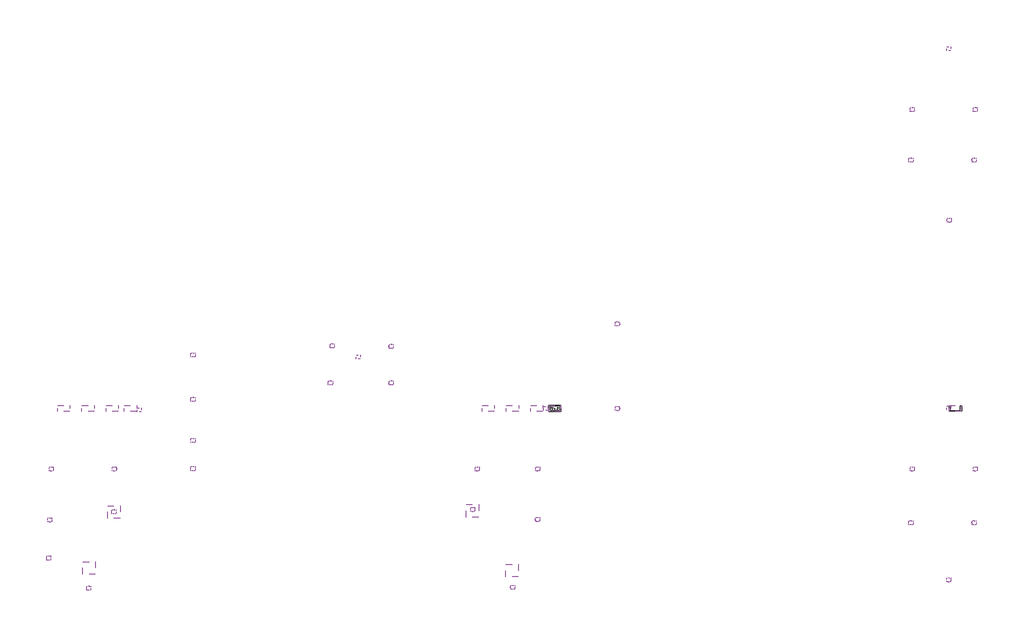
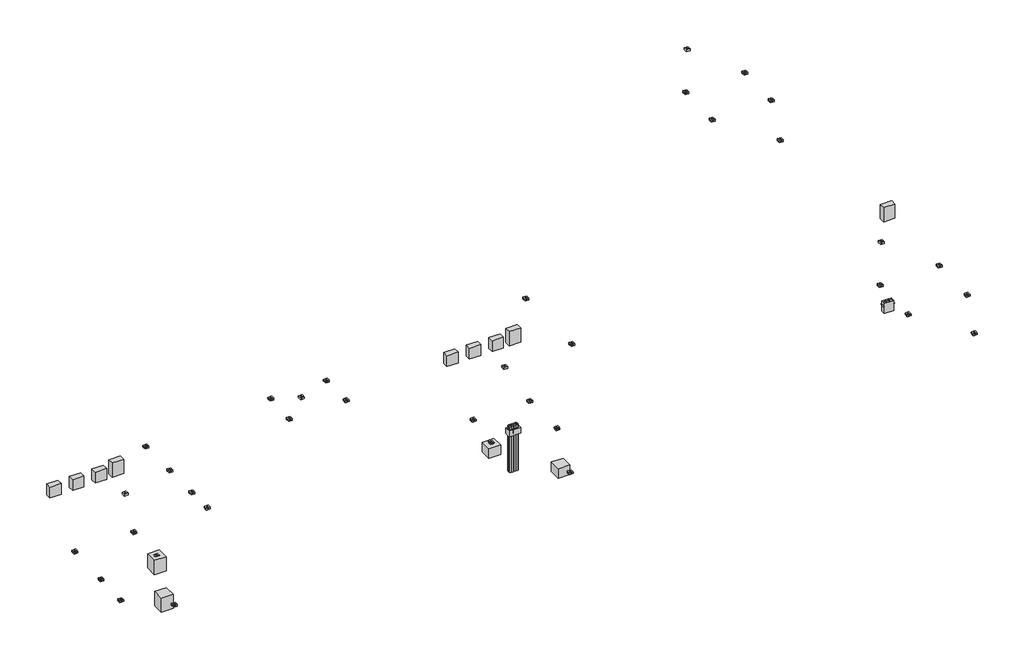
# One storey: 60 proxies.
"""IFC4 building model written with IfcOpenShell, lengths in millimetres."""

from ifc_helpers import new_model, si_unit, origin, place, context, project, spatial, transform, mapped, element, save
from components import generic_models_95319f70, generic_models_0aa0c841, generic_models_7e42b7d0, electrical_equipment_e233f642, electrical_equipment_43165160, electrical_fixtures_ff56aada, generic_models_fd5a0a99, generic_models_925cb547, electrical_equipment_e4ef6d0d, electrical_equipment_611ffe71

model = new_model("IFC4")

# Units and contexts
model_context = context("Model", 3, world=origin())
ifc_project = project(units=[si_unit("LENGTHUNIT", "METRE", prefix="MILLI")], contexts=[model_context])

# Site, building, storey
site = spatial("IfcSite", under=ifc_project)
building = spatial("IfcBuilding", under=site)
storey = spatial("IfcBuildingStorey", under=building, Name="Уровень 2", Elevation=4000.0)

# Proxies
placement = place(None, origin())
generic_models_shape = generic_models_95319f70(model_context)
element("IfcBuildingElementProxy", 1, Name="▲GM_УЭР_кабельная_проходка : трубы_60_48_мм", ObjectType="▲GM_УЭР_кабельная_проходка : трубы_60_48_мм", at=placement, inside=storey, context=model_context, shape_type="MappedRepresentation", body=[
    mapped(generic_models_shape, transform((37117.1146476, 9545.3355395, 4000.0), x_axis=(1.0, 0.0, 0.0), y_axis=(0.0, 1.0, 0.0), z_axis=(0.0, 0.0, 1.0))),
])
generic_models_2_shape = generic_models_0aa0c841(model_context)
element("IfcBuildingElementProxy", 2, Name="▲GM_Труба : Тэ048_мм", ObjectType="▲GM_Труба : Тэ048_мм", at=placement, inside=storey, context=model_context, shape_type="MappedRepresentation", body=[
    mapped(generic_models_2_shape, transform((37171.1146476, 9506.3355395, 4000.0), x_axis=(1.0, 0.0, 0.0), y_axis=(0.0, 1.0, 0.0), z_axis=(0.0, 0.0, 1.0))),
])
element("IfcBuildingElementProxy", 3, Name="▲GM_Труба : Тэ048_мм", ObjectType="▲GM_Труба : Тэ048_мм", at=placement, inside=storey, context=model_context, shape_type="MappedRepresentation", body=[
    mapped(generic_models_2_shape, transform((37219.1146476, 9506.3355395, 4000.0), x_axis=(1.0, 0.0, 0.0), y_axis=(0.0, 1.0, 0.0), z_axis=(0.0, 0.0, 1.0))),
])
element("IfcBuildingElementProxy", 4, Name="▲GM_Труба : Тэ048_мм", ObjectType="▲GM_Труба : Тэ048_мм", at=placement, inside=storey, context=model_context, shape_type="MappedRepresentation", body=[
    mapped(generic_models_2_shape, transform((37267.1146476, 9506.3355395, 4000.0), x_axis=(1.0, 0.0, 0.0), y_axis=(0.0, 1.0, 0.0), z_axis=(0.0, 0.0, 1.0))),
])
element("IfcBuildingElementProxy", 5, Name="▲GM_Труба : Тэ048_мм", ObjectType="▲GM_Труба : Тэ048_мм", at=placement, inside=storey, context=model_context, shape_type="MappedRepresentation", body=[
    mapped(generic_models_2_shape, transform((37315.1146476, 9506.3355395, 4000.0), x_axis=(1.0, 0.0, 0.0), y_axis=(0.0, 1.0, 0.0), z_axis=(0.0, 0.0, 1.0))),
])
element("IfcBuildingElementProxy", 6, Name="▲GM_Труба : Тэ048_мм", ObjectType="▲GM_Труба : Тэ048_мм", at=placement, inside=storey, context=model_context, shape_type="MappedRepresentation", body=[
    mapped(generic_models_2_shape, transform((37363.1146476, 9506.3355395, 4000.0), x_axis=(1.0, 0.0, 0.0), y_axis=(0.0, 1.0, 0.0), z_axis=(0.0, 0.0, 1.0))),
])
generic_models_3_shape = generic_models_7e42b7d0(model_context)
element("IfcBuildingElementProxy", 7, Name="▲GM_Труба : Тэ060_мм", ObjectType="▲GM_Труба : Тэ060_мм", at=placement, inside=storey, context=model_context, shape_type="MappedRepresentation", body=[
    mapped(generic_models_3_shape, transform((37177.1146476, 9452.3355395, 4000.0), x_axis=(1.0, 0.0, 0.0), y_axis=(0.0, 1.0, 0.0), z_axis=(0.0, 0.0, 1.0))),
])
element("IfcBuildingElementProxy", 8, Name="▲GM_Труба : Тэ060_мм", ObjectType="▲GM_Труба : Тэ060_мм", at=placement, inside=storey, context=model_context, shape_type="MappedRepresentation", body=[
    mapped(generic_models_3_shape, transform((37237.1146476, 9452.3355395, 4000.0), x_axis=(1.0, 0.0, 0.0), y_axis=(0.0, 1.0, 0.0), z_axis=(0.0, 0.0, 1.0))),
])
element("IfcBuildingElementProxy", 9, Name="▲GM_Труба : Тэ060_мм", ObjectType="▲GM_Труба : Тэ060_мм", at=placement, inside=storey, context=model_context, shape_type="MappedRepresentation", body=[
    mapped(generic_models_3_shape, transform((37297.1146476, 9452.3355395, 4000.0), x_axis=(1.0, 0.0, 0.0), y_axis=(0.0, 1.0, 0.0), z_axis=(0.0, 0.0, 1.0))),
])
element("IfcBuildingElementProxy", 10, Name="▲GM_Труба : Тэ060_мм", ObjectType="▲GM_Труба : Тэ060_мм", at=placement, inside=storey, context=model_context, shape_type="MappedRepresentation", body=[
    mapped(generic_models_3_shape, transform((37357.1146476, 9452.3355395, 4000.0), x_axis=(1.0, 0.0, 0.0), y_axis=(0.0, 1.0, 0.0), z_axis=(0.0, 0.0, 1.0))),
])
electrical_equipment_shape = electrical_equipment_e233f642(model_context)
element("IfcBuildingElementProxy", 11, Name="▲EE_УЭР_компенсатор : 0300_мм", ObjectType="▲EE_УЭР_компенсатор : 0300_мм", at=placement, inside=storey, context=model_context, shape_type="MappedRepresentation", body=[
    mapped(electrical_equipment_shape, transform((26167.1146476, 9545.3355395, 6380.0), x_axis=(1.0, 0.0, 0.0), y_axis=(0.0, 1.0, 0.0), z_axis=(0.0, 0.0, 1.0))),
])
element("IfcBuildingElementProxy", 12, Name="▲EE_УЭР_компенсатор : 0300_мм", ObjectType="▲EE_УЭР_компенсатор : 0300_мм", at=placement, inside=storey, context=model_context, shape_type="MappedRepresentation", body=[
    mapped(electrical_equipment_shape, transform((36667.1146476, 9545.3355395, 6380.0), x_axis=(1.0, 0.0, 0.0), y_axis=(0.0, 1.0, 0.0), z_axis=(0.0, 0.0, 1.0))),
])
electrical_equipment_2_shape = electrical_equipment_43165160(model_context)
element("IfcBuildingElementProxy", 13, Name="▲EE_УЭР_компенсатор : 0400_мм", ObjectType="▲EE_УЭР_компенсатор : 0400_мм", at=placement, inside=storey, context=model_context, shape_type="MappedRepresentation", body=[
    mapped(electrical_equipment_2_shape, transform((26917.1146476, 9395.3355395, 6380.0), x_axis=(-1.0, 0.0, 0.0), y_axis=(0.0, -1.0, 0.0), z_axis=(0.0, 0.0, 1.0))),
])
element("IfcBuildingElementProxy", 14, Name="▲EE_УЭР_компенсатор : 0400_мм", ObjectType="▲EE_УЭР_компенсатор : 0400_мм", at=placement, inside=storey, context=model_context, shape_type="MappedRepresentation", body=[
    mapped(electrical_equipment_2_shape, transform((37417.1146476, 9395.3355395, 6380.0), x_axis=(-1.0, 0.0, 0.0), y_axis=(0.0, -1.0, 0.0), z_axis=(0.0, 0.0, 1.0))),
])
element("IfcBuildingElementProxy", 15, Name="▲EE_УЭР_компенсатор : 0400_мм", ObjectType="▲EE_УЭР_компенсатор : 0400_мм", at=placement, inside=storey, context=model_context, shape_type="MappedRepresentation", body=[
    mapped(electrical_equipment_2_shape, transform((47322.1146476, 9395.3355395, 6380.0), x_axis=(-1.0, 0.0, 0.0), y_axis=(0.0, -1.0, 0.0), z_axis=(0.0, 0.0, 1.0))),
])
electrical_fixtures_shape = electrical_fixtures_ff56aada(model_context)
element("IfcBuildingElementProxy", 16, Name="mS_EF_НГ_электроприбор : mS_EF_НГ_электроприбор", ObjectType="mS_EF_НГ_электроприбор : mS_EF_НГ_электроприбор", at=placement, inside=storey, context=model_context, shape_type="MappedRepresentation", body=[
    mapped(electrical_fixtures_shape, transform((24806.41537, 7971.2100075, 5800.0), x_axis=(1.0, 0.0, 0.0), y_axis=(0.0, 1.0, 0.0), z_axis=(0.0, 0.0, 1.0))),
])
element("IfcBuildingElementProxy", 17, Name="mS_EF_НГ_электроприбор : mS_EF_НГ_электроприбор", ObjectType="mS_EF_НГ_электроприбор : mS_EF_НГ_электроприбор", at=placement, inside=storey, context=model_context, shape_type="MappedRepresentation", body=[
    mapped(electrical_fixtures_shape, transform((24769.6279888, 6708.6894082, 5800.0), x_axis=(1.0, 0.0, 0.0), y_axis=(0.0, 1.0, 0.0), z_axis=(0.0, 0.0, 1.0))),
])
element("IfcBuildingElementProxy", 18, Name="mS_EF_НГ_электроприбор : mS_EF_НГ_электроприбор", ObjectType="mS_EF_НГ_электроприбор : mS_EF_НГ_электроприбор", at=placement, inside=storey, context=model_context, shape_type="MappedRepresentation", body=[
    mapped(electrical_fixtures_shape, transform((26366.41537, 7971.2100075, 5800.0), x_axis=(1.0, 0.0, 0.0), y_axis=(0.0, 1.0, 0.0), z_axis=(0.0, 0.0, 1.0))),
])
element("IfcBuildingElementProxy", 19, Name="mS_EF_НГ_электроприбор : mS_EF_НГ_электроприбор", ObjectType="mS_EF_НГ_электроприбор : mS_EF_НГ_электроприбор", at=placement, inside=storey, context=model_context, shape_type="MappedRepresentation", body=[
    mapped(electrical_fixtures_shape, transform((24744.6279888, 5764.1889301, 5800.0), x_axis=(1.0, 0.0, 0.0), y_axis=(0.0, 1.0, 0.0), z_axis=(0.0, 0.0, 1.0))),
])
element("IfcBuildingElementProxy", 20, Name="mS_EF_НГ_электроприбор : mS_EF_НГ_электроприбор", ObjectType="mS_EF_НГ_электроприбор : mS_EF_НГ_электроприбор", at=placement, inside=storey, context=model_context, shape_type="MappedRepresentation", body=[
    mapped(electrical_fixtures_shape, transform((26358.8579691, 6910.4766733, 5776.3775228), x_axis=(1.0, 0.0, 0.0), y_axis=(0.0, 1.0, 0.0), z_axis=(0.0, 0.0, 1.0))),
])
element("IfcBuildingElementProxy", 21, Name="mS_EF_НГ_электроприбор : mS_EF_НГ_электроприбор", ObjectType="mS_EF_НГ_электроприбор : mS_EF_НГ_электроприбор", at=placement, inside=storey, context=model_context, shape_type="MappedRepresentation", body=[
    mapped(electrical_fixtures_shape, transform((25733.8579691, 5019.1889301, 5775.0), x_axis=(1.0, 0.0, 0.0), y_axis=(0.0, 1.0, 0.0), z_axis=(0.0, 0.0, 1.0))),
])
element("IfcBuildingElementProxy", 22, Name="mS_EF_НГ_электроприбор : mS_EF_НГ_электроприбор", ObjectType="mS_EF_НГ_электроприбор : mS_EF_НГ_электроприбор", at=placement, inside=storey, context=model_context, shape_type="MappedRepresentation", body=[
    mapped(electrical_fixtures_shape, transform((35239.6279888, 6966.2100075, 5800.0), x_axis=(1.0, 0.0, 0.0), y_axis=(0.0, 1.0, 0.0), z_axis=(0.0, 0.0, 1.0))),
])
element("IfcBuildingElementProxy", 23, Name="mS_EF_НГ_электроприбор : mS_EF_НГ_электроприбор", ObjectType="mS_EF_НГ_электроприбор : mS_EF_НГ_электроприбор", at=placement, inside=storey, context=model_context, shape_type="MappedRepresentation", body=[
    mapped(electrical_fixtures_shape, transform((36219.6279888, 5040.4766733, 5800.0), x_axis=(1.0, 0.0, 0.0), y_axis=(0.0, 1.0, 0.0), z_axis=(0.0, 0.0, 1.0))),
])
element("IfcBuildingElementProxy", 24, Name="mS_EF_НГ_электроприбор : mS_EF_НГ_электроприбор", ObjectType="mS_EF_НГ_электроприбор : mS_EF_НГ_электроприбор", at=placement, inside=storey, context=model_context, shape_type="MappedRepresentation", body=[
    mapped(electrical_fixtures_shape, transform((35342.1222304, 7971.2100075, 5800.0), x_axis=(1.0, 0.0, 0.0), y_axis=(0.0, 1.0, 0.0), z_axis=(0.0, 0.0, 1.0))),
])
element("IfcBuildingElementProxy", 25, Name="mS_EF_НГ_электроприбор : mS_EF_НГ_электроприбор", ObjectType="mS_EF_НГ_электроприбор : mS_EF_НГ_электроприбор", at=placement, inside=storey, context=model_context, shape_type="MappedRepresentation", body=[
    mapped(electrical_fixtures_shape, transform((36837.1222304, 7971.2100075, 5800.0), x_axis=(1.0, 0.0, 0.0), y_axis=(0.0, 1.0, 0.0), z_axis=(0.0, 0.0, 1.0))),
])
element("IfcBuildingElementProxy", 26, Name="mS_EF_НГ_электроприбор : mS_EF_НГ_электроприбор", ObjectType="mS_EF_НГ_электроприбор : mS_EF_НГ_электроприбор", at=placement, inside=storey, context=model_context, shape_type="MappedRepresentation", body=[
    mapped(electrical_fixtures_shape, transform((36837.1222304, 6718.6894082, 5800.0), x_axis=(1.0, 0.0, 0.0), y_axis=(0.0, 1.0, 0.0), z_axis=(0.0, 0.0, 1.0))),
])
element("IfcBuildingElementProxy", 27, Name="mS_EF_НГ_электроприбор : mS_EF_НГ_электроприбор", ObjectType="mS_EF_НГ_электроприбор : mS_EF_НГ_электроприбор", at=placement, inside=storey, context=model_context, shape_type="MappedRepresentation", body=[
    mapped(electrical_fixtures_shape, transform((46106.41537, 7971.2100075, 5800.0), x_axis=(1.0, 0.0, 0.0), y_axis=(0.0, 1.0, 0.0), z_axis=(0.0, 0.0, 1.0))),
])
element("IfcBuildingElementProxy", 28, Name="mS_EF_НГ_электроприбор : mS_EF_НГ_электроприбор", ObjectType="mS_EF_НГ_электроприбор : mS_EF_НГ_электроприбор", at=placement, inside=storey, context=model_context, shape_type="MappedRepresentation", body=[
    mapped(electrical_fixtures_shape, transform((47666.41537, 7971.2100075, 5800.0), x_axis=(1.0, 0.0, 0.0), y_axis=(0.0, 1.0, 0.0), z_axis=(0.0, 0.0, 1.0))),
])
element("IfcBuildingElementProxy", 29, Name="mS_EF_НГ_электроприбор : mS_EF_НГ_электроприбор", ObjectType="mS_EF_НГ_электроприбор : mS_EF_НГ_электроприбор", at=placement, inside=storey, context=model_context, shape_type="MappedRepresentation", body=[
    mapped(electrical_fixtures_shape, transform((46077.1222304, 6639.0759859, 5800.0), x_axis=(1.0, 0.0, 0.0), y_axis=(0.0, 1.0, 0.0), z_axis=(0.0, 0.0, 1.0))),
])
element("IfcBuildingElementProxy", 30, Name="mS_EF_НГ_электроприбор : mS_EF_НГ_электроприбор", ObjectType="mS_EF_НГ_электроприбор : mS_EF_НГ_электроприбор", at=placement, inside=storey, context=model_context, shape_type="MappedRepresentation", body=[
    mapped(electrical_fixtures_shape, transform((47637.1222304, 6639.0759859, 5800.0), x_axis=(1.0, 0.0, 0.0), y_axis=(0.0, 1.0, 0.0), z_axis=(0.0, 0.0, 1.0))),
])
element("IfcBuildingElementProxy", 31, Name="mS_EF_НГ_электроприбор : mS_EF_НГ_электроприбор", ObjectType="mS_EF_НГ_электроприбор : mS_EF_НГ_электроприбор", at=placement, inside=storey, context=model_context, shape_type="MappedRepresentation", body=[
    mapped(electrical_fixtures_shape, transform((47009.6279888, 5224.8465214, 5800.0), x_axis=(1.0, 0.0, 0.0), y_axis=(0.0, 1.0, 0.0), z_axis=(0.0, 0.0, 1.0))),
])
element("IfcBuildingElementProxy", 32, Name="mS_EF_НГ_электроприбор : mS_EF_НГ_электроприбор", ObjectType="mS_EF_НГ_электроприбор : mS_EF_НГ_электроприбор", at=placement, inside=storey, context=model_context, shape_type="MappedRepresentation", body=[
    mapped(electrical_fixtures_shape, transform((47019.6279888, 14129.3465214, 5800.0), x_axis=(1.0, 0.0, 0.0), y_axis=(0.0, 1.0, 0.0), z_axis=(0.0, 0.0, 1.0))),
])
element("IfcBuildingElementProxy", 33, Name="mS_EF_НГ_электроприбор : mS_EF_НГ_электроприбор", ObjectType="mS_EF_НГ_электроприбор : mS_EF_НГ_электроприбор", at=placement, inside=storey, context=model_context, shape_type="MappedRepresentation", body=[
    mapped(electrical_fixtures_shape, transform((46106.41537, 16871.2100075, 5800.0), x_axis=(1.0, 0.0, 0.0), y_axis=(0.0, 1.0, 0.0), z_axis=(0.0, 0.0, 1.0))),
])
element("IfcBuildingElementProxy", 34, Name="mS_EF_НГ_электроприбор : mS_EF_НГ_электроприбор", ObjectType="mS_EF_НГ_электроприбор : mS_EF_НГ_электроприбор", at=placement, inside=storey, context=model_context, shape_type="MappedRepresentation", body=[
    mapped(electrical_fixtures_shape, transform((47666.41537, 16871.2100075, 5800.0), x_axis=(1.0, 0.0, 0.0), y_axis=(0.0, 1.0, 0.0), z_axis=(0.0, 0.0, 1.0))),
])
element("IfcBuildingElementProxy", 35, Name="mS_EF_НГ_электроприбор : mS_EF_НГ_электроприбор", ObjectType="mS_EF_НГ_электроприбор : mS_EF_НГ_электроприбор", at=placement, inside=storey, context=model_context, shape_type="MappedRepresentation", body=[
    mapped(electrical_fixtures_shape, transform((46077.1222304, 15618.6894082, 5800.0), x_axis=(1.0, 0.0, 0.0), y_axis=(0.0, 1.0, 0.0), z_axis=(0.0, 0.0, 1.0))),
])
element("IfcBuildingElementProxy", 36, Name="mS_EF_НГ_электроприбор : mS_EF_НГ_электроприбор", ObjectType="mS_EF_НГ_электроприбор : mS_EF_НГ_электроприбор", at=placement, inside=storey, context=model_context, shape_type="MappedRepresentation", body=[
    mapped(electrical_fixtures_shape, transform((47637.1222304, 15618.6894082, 5800.0), x_axis=(1.0, 0.0, 0.0), y_axis=(0.0, 1.0, 0.0), z_axis=(0.0, 0.0, 1.0))),
])
generic_models_4_shape = generic_models_fd5a0a99(model_context)
element("IfcBuildingElementProxy", 37, Name="▲GM_Зона обслуживания : Тип", ObjectType="▲GM_Зона обслуживания : Тип", at=placement, inside=storey, context=model_context, shape_type="MappedRepresentation", body=[
    mapped(generic_models_4_shape, transform((25900.8238579, 5363.2978573, 5405.0), x_axis=(-1.0, 0.0, 0.0), y_axis=(0.0, -1.0, 0.0), z_axis=(0.0, 0.0, 1.0))),
])
element("IfcBuildingElementProxy", 38, Name="▲GM_Зона обслуживания : Тип", ObjectType="▲GM_Зона обслуживания : Тип", at=placement, inside=storey, context=model_context, shape_type="MappedRepresentation", body=[
    mapped(generic_models_4_shape, transform((26513.8579691, 6747.8427321, 5406.3775228), x_axis=(-1.0, 0.0, 0.0), y_axis=(0.0, -1.0, 0.0), z_axis=(0.0, 0.0, 1.0))),
])
generic_models_5_shape = generic_models_925cb547(model_context)
element("IfcBuildingElementProxy", 39, Name="▲GM_Зона обслуживания : Тип", ObjectType="▲GM_Зона обслуживания : Тип", at=placement, inside=storey, context=model_context, shape_type="MappedRepresentation", body=[
    mapped(generic_models_5_shape, transform((35380.8029045, 6778.6894082, 5535.0), x_axis=(-1.0, 0.0, 0.0), y_axis=(0.0, -1.0, 0.0), z_axis=(0.0, 0.0, 1.0))),
])
element("IfcBuildingElementProxy", 40, Name="▲GM_Зона обслуживания : Тип", ObjectType="▲GM_Зона обслуживания : Тип", at=placement, inside=storey, context=model_context, shape_type="MappedRepresentation", body=[
    mapped(generic_models_5_shape, transform((36360.5596599, 5299.3465214, 5535.0), x_axis=(-1.0, 0.0, 0.0), y_axis=(0.0, -1.0, 0.0), z_axis=(0.0, 0.0, 1.0))),
])
electrical_equipment_3_shape = electrical_equipment_e4ef6d0d(model_context)
element("IfcBuildingElementProxy", 41, Name="mS_EE_НГ_транзит : mS_EE_НГ_транзит", ObjectType="mS_EE_НГ_транзит : mS_EE_НГ_транзит", at=placement, inside=storey, context=model_context, shape_type="MappedRepresentation", body=[
    mapped(electrical_equipment_3_shape, transform((47009.6279888, 18380.4766733, 5800.0), x_axis=(1.0, 0.0, 0.0), y_axis=(0.0, 1.0, 0.0), z_axis=(0.0, 0.0, 1.0))),
])
element("IfcBuildingElementProxy", 42, Name="mS_EE_НГ_транзит : mS_EE_НГ_транзит", ObjectType="mS_EE_НГ_транзит : mS_EE_НГ_транзит", at=placement, inside=storey, context=model_context, shape_type="MappedRepresentation", body=[
    mapped(electrical_equipment_3_shape, transform((47009.6279888, 9480.4766733, 5800.0), x_axis=(1.0, 0.0, 0.0), y_axis=(0.0, 1.0, 0.0), z_axis=(0.0, 0.0, 1.0))),
])
element("IfcBuildingElementProxy", 43, Name="mS_EE_НГ_транзит : mS_EE_НГ_транзит", ObjectType="mS_EE_НГ_транзит : mS_EE_НГ_транзит", at=placement, inside=storey, context=model_context, shape_type="MappedRepresentation", body=[
    mapped(electrical_equipment_3_shape, transform((37040.0508153, 9465.2877518, 5800.0), x_axis=(1.0, 0.0, 0.0), y_axis=(0.0, 1.0, 0.0), z_axis=(0.0, 0.0, 1.0))),
])
element("IfcBuildingElementProxy", 44, Name="mS_EE_НГ_транзит : mS_EE_НГ_транзит", ObjectType="mS_EE_НГ_транзит : mS_EE_НГ_транзит", at=placement, inside=storey, context=model_context, shape_type="MappedRepresentation", body=[
    mapped(electrical_equipment_3_shape, transform((26978.9789974, 9434.5949034, 5800.0), x_axis=(1.0, 0.0, 0.0), y_axis=(0.0, 1.0, 0.0), z_axis=(0.0, 0.0, 1.0))),
])
element("IfcBuildingElementProxy", 45, Name="mS_EE_НГ_транзит : mS_EE_НГ_транзит", ObjectType="mS_EE_НГ_транзит : mS_EE_НГ_транзит", at=placement, inside=storey, context=model_context, shape_type="MappedRepresentation", body=[
    mapped(electrical_equipment_3_shape, transform((32404.3452942, 10748.383353, 5800.0), x_axis=(1.0, 0.0, 0.0), y_axis=(0.0, 1.0, 0.0), z_axis=(0.0, 0.0, 1.0))),
])
element("IfcBuildingElementProxy", 46, Name="mS_EF_НГ_электроприбор : mS_EF_НГ_электроприбор", ObjectType="mS_EF_НГ_электроприбор : mS_EF_НГ_электроприбор", at=placement, inside=storey, context=model_context, shape_type="MappedRepresentation", body=[
    mapped(electrical_fixtures_shape, transform((38813.5270305, 9463.8856698, 5800.0), x_axis=(1.0, 0.0, 0.0), y_axis=(0.0, 1.0, 0.0), z_axis=(0.0, 0.0, 1.0))),
])
element("IfcBuildingElementProxy", 47, Name="mS_EF_НГ_электроприбор : mS_EF_НГ_электроприбор", ObjectType="mS_EF_НГ_электроприбор : mS_EF_НГ_электроприбор", at=placement, inside=storey, context=model_context, shape_type="MappedRepresentation", body=[
    mapped(electrical_fixtures_shape, transform((38813.5270305, 11563.8856698, 5800.0), x_axis=(1.0, 0.0, 0.0), y_axis=(0.0, 1.0, 0.0), z_axis=(0.0, 0.0, 1.0))),
])
element("IfcBuildingElementProxy", 48, Name="mS_EF_НГ_электроприбор : mS_EF_НГ_электроприбор", ObjectType="mS_EF_НГ_электроприбор : mS_EF_НГ_электроприбор", at=placement, inside=storey, context=model_context, shape_type="MappedRepresentation", body=[
    mapped(electrical_fixtures_shape, transform((28313.5270305, 7978.8856698, 5800.0), x_axis=(1.0, 0.0, 0.0), y_axis=(0.0, 1.0, 0.0), z_axis=(0.0, 0.0, 1.0))),
])
element("IfcBuildingElementProxy", 49, Name="mS_EF_НГ_электроприбор : mS_EF_НГ_электроприбор", ObjectType="mS_EF_НГ_электроприбор : mS_EF_НГ_электроприбор", at=placement, inside=storey, context=model_context, shape_type="MappedRepresentation", body=[
    mapped(electrical_fixtures_shape, transform((28313.5270305, 8678.8856698, 5800.0), x_axis=(1.0, 0.0, 0.0), y_axis=(0.0, 1.0, 0.0), z_axis=(0.0, 0.0, 1.0))),
])
element("IfcBuildingElementProxy", 50, Name="mS_EF_НГ_электроприбор : mS_EF_НГ_электроприбор", ObjectType="mS_EF_НГ_электроприбор : mS_EF_НГ_электроприбор", at=placement, inside=storey, context=model_context, shape_type="MappedRepresentation", body=[
    mapped(electrical_fixtures_shape, transform((28313.5270305, 9693.8856698, 5800.0), x_axis=(1.0, 0.0, 0.0), y_axis=(0.0, 1.0, 0.0), z_axis=(0.0, 0.0, 1.0))),
])
element("IfcBuildingElementProxy", 51, Name="mS_EF_НГ_электроприбор : mS_EF_НГ_электроприбор", ObjectType="mS_EF_НГ_электроприбор : mS_EF_НГ_электроприбор", at=placement, inside=storey, context=model_context, shape_type="MappedRepresentation", body=[
    mapped(electrical_fixtures_shape, transform((28313.5270305, 10793.8856698, 5800.0), x_axis=(1.0, 0.0, 0.0), y_axis=(0.0, 1.0, 0.0), z_axis=(0.0, 0.0, 1.0))),
])
element("IfcBuildingElementProxy", 52, Name="mS_EF_НГ_электроприбор : mS_EF_НГ_электроприбор", ObjectType="mS_EF_НГ_электроприбор : mS_EF_НГ_электроприбор", at=placement, inside=storey, context=model_context, shape_type="MappedRepresentation", body=[
    mapped(electrical_fixtures_shape, transform((31753.1550114, 11020.1324304, 5800.0), x_axis=(1.0, 0.0, 0.0), y_axis=(0.0, 1.0, 0.0), z_axis=(0.0, 0.0, 1.0))),
])
element("IfcBuildingElementProxy", 53, Name="mS_EF_НГ_электроприбор : mS_EF_НГ_электроприбор", ObjectType="mS_EF_НГ_электроприбор : mS_EF_НГ_электроприбор", at=placement, inside=storey, context=model_context, shape_type="MappedRepresentation", body=[
    mapped(electrical_fixtures_shape, transform((31714.9524123, 10103.4747248, 5800.0), x_axis=(1.0, 0.0, 0.0), y_axis=(0.0, 1.0, 0.0), z_axis=(0.0, 0.0, 1.0))),
])
element("IfcBuildingElementProxy", 54, Name="mS_EF_НГ_электроприбор : mS_EF_НГ_электроприбор", ObjectType="mS_EF_НГ_электроприбор : mS_EF_НГ_электроприбор", at=placement, inside=storey, context=model_context, shape_type="MappedRepresentation", body=[
    mapped(electrical_fixtures_shape, transform((33214.9524123, 11006.4190149, 5800.0), x_axis=(1.0, 0.0, 0.0), y_axis=(0.0, 1.0, 0.0), z_axis=(0.0, 0.0, 1.0))),
])
element("IfcBuildingElementProxy", 55, Name="mS_EF_НГ_электроприбор : mS_EF_НГ_электроприбор", ObjectType="mS_EF_НГ_электроприбор : mS_EF_НГ_электроприбор", at=placement, inside=storey, context=model_context, shape_type="MappedRepresentation", body=[
    mapped(electrical_fixtures_shape, transform((33214.9524123, 10103.4747248, 5800.0), x_axis=(1.0, 0.0, 0.0), y_axis=(0.0, 1.0, 0.0), z_axis=(0.0, 0.0, 1.0))),
])
element("IfcBuildingElementProxy", 56, Name="▲EE_УЭР_компенсатор : 0300_мм", ObjectType="▲EE_УЭР_компенсатор : 0300_мм", at=placement, inside=storey, context=model_context, shape_type="MappedRepresentation", body=[
    mapped(electrical_equipment_shape, transform((24967.1146476, 9545.3355395, 6380.0), x_axis=(1.0, 0.0, 0.0), y_axis=(0.0, 1.0, 0.0), z_axis=(0.0, 0.0, 1.0))),
])
element("IfcBuildingElementProxy", 57, Name="▲EE_УЭР_компенсатор : 0300_мм", ObjectType="▲EE_УЭР_компенсатор : 0300_мм", at=placement, inside=storey, context=model_context, shape_type="MappedRepresentation", body=[
    mapped(electrical_equipment_shape, transform((25567.1146476, 9545.3355395, 6380.0), x_axis=(1.0, 0.0, 0.0), y_axis=(0.0, 1.0, 0.0), z_axis=(0.0, 0.0, 1.0))),
])
element("IfcBuildingElementProxy", 58, Name="▲EE_УЭР_компенсатор : 0300_мм", ObjectType="▲EE_УЭР_компенсатор : 0300_мм", at=placement, inside=storey, context=model_context, shape_type="MappedRepresentation", body=[
    mapped(electrical_equipment_shape, transform((35467.1146476, 9545.3355395, 6380.0), x_axis=(1.0, 0.0, 0.0), y_axis=(0.0, 1.0, 0.0), z_axis=(0.0, 0.0, 1.0))),
])
element("IfcBuildingElementProxy", 59, Name="▲EE_УЭР_компенсатор : 0300_мм", ObjectType="▲EE_УЭР_компенсатор : 0300_мм", at=placement, inside=storey, context=model_context, shape_type="MappedRepresentation", body=[
    mapped(electrical_equipment_shape, transform((36067.1146476, 9545.3355395, 6380.0), x_axis=(1.0, 0.0, 0.0), y_axis=(0.0, 1.0, 0.0), z_axis=(0.0, 0.0, 1.0))),
])
electrical_equipment_4_shape = electrical_equipment_611ffe71(model_context)
element("IfcBuildingElementProxy", 60, Name="▲EE_УЭР_гильза : 250_мм", ObjectType="▲EE_УЭР_гильза : 250_мм", at=placement, inside=storey, context=model_context, shape_type="MappedRepresentation", body=[
    mapped(electrical_equipment_4_shape, transform((47322.1146476, 9395.3355395, 4000.0), x_axis=(-1.0, 0.0, 0.0), y_axis=(0.0, -1.0, 0.0), z_axis=(0.0, 0.0, 1.0))),
])

save(model, "model.ifc")
